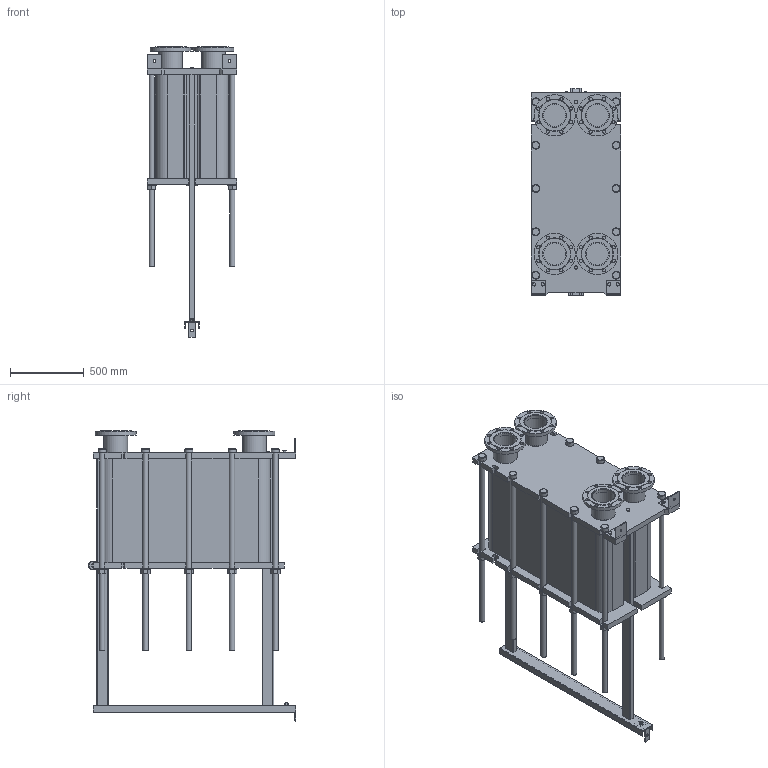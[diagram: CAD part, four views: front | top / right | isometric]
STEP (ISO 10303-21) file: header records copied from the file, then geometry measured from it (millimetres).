
FILE_DESCRIPTION(/* description */ (''),/* implementation_level */ '2;1');
FILE_NAME(/* name */ 'C:\Users\zhuro\Desktop\ENCO\TO\ЭН-041\ЭН-0,5-041-204-1.stp',/* time_stamp */ '2022-06-06T11:06:31+03:00',/* author */ ('zhuro'),/* organization */ (''),/* preprocessor_version */ 'ST-DEVELOPER v18.1',/* originating_system */ 'Autodesk Inventor 2022',/* authorisation */ '');
FILE_SCHEMA (('AUTOMOTIVE_DESIGN { 1 0 10303 214 3 1 1 }'));
Length unit declared in the file: millimetre
Products named in the file (1): ЭН-0,5-041-204-1
Bounding box: 610 x 1406.5 x 1970 mm (x, y, z)
Volume: 483624854.8 mm3; surface area: 11317625.8 mm2
Topology: 52 solids, 52 shells, 711 faces, 1696 edges, 1094 vertices
Faces by surface type: plane 487, cylinder 177, cone 41, torus 6
Full cylindrical faces by diameter (mm): 8 x4, 10 x2, 16 x8, 18 x3, 22 x32, 36 x24, 50 x1, 54 x10, 60 x12, 151 x4, 161 x8, 280 x4
Entity records: 22667 total; most frequent: CARTESIAN_POINT 5230, DIRECTION 3644, ORIENTED_EDGE 3392, EDGE_CURVE 1696, AXIS2_PLACEMENT_3D 1272, LINE 1100, VECTOR 1100, VERTEX_POINT 1094
